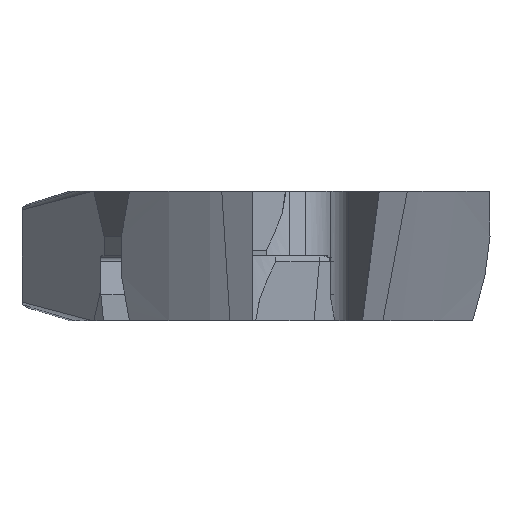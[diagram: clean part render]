
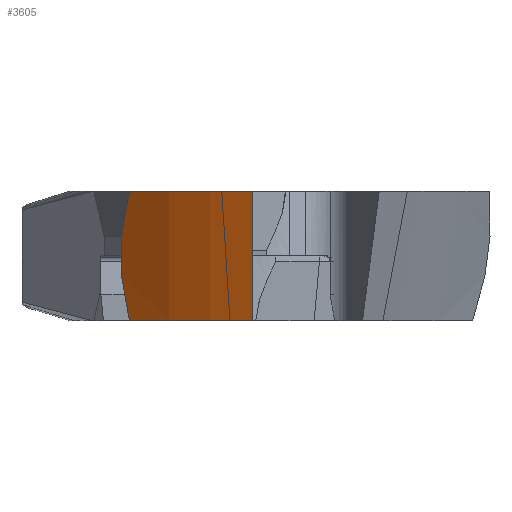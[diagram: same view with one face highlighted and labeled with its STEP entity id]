
A CAD part, left-side view. The second image highlights one B-rep face of the part: STEP entity #3605.
In plain terms, the highlighted cylindrical face has radius 38.1 mm (diameter 76.2 mm), a partial arc.
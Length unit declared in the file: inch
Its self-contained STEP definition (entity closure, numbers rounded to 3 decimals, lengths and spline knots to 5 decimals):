
#2897=CARTESIAN_POINT('',(-2.45945,0.63381,0.02075));
#2898=VERTEX_POINT('',#2897);
#2905=CARTESIAN_POINT('',(-2.61445,0.,0.02075));
#2906=VERTEX_POINT('',#2905);
#2907=CARTESIAN_POINT('',(-0.95938,0.,0.02075));
#2908=DIRECTION('',(0.0,0.0,-1.0));
#2909=DIRECTION('',(-1.0,0.0,0.0));
#2910=AXIS2_PLACEMENT_3D('',#2907,#2908,#2909);
#2911=ELLIPSE('',#2910,1.65507,1.5);
#2912=EDGE_CURVE('',#2906,#2898,#2911,.T.);
#3045=CARTESIAN_POINT('',(-2.30249,0.,-0.64825));
#3046=VERTEX_POINT('',#3045);
#3053=CARTESIAN_POINT('',(-2.14749,0.63381,-0.64825));
#3054=VERTEX_POINT('',#3053);
#3055=CARTESIAN_POINT('',(-0.64742,0.,-0.64825));
#3056=DIRECTION('',(0.0,0.0,1.0));
#3057=DIRECTION('',(-1.0,0.0,0.0));
#3058=AXIS2_PLACEMENT_3D('',#3055,#3056,#3057);
#3059=ELLIPSE('',#3058,1.65507,1.5);
#3060=EDGE_CURVE('',#3054,#3046,#3059,.T.);
#3139=CARTESIAN_POINT('',(-2.32847,0.675,-0.21286));
#3140=VERTEX_POINT('',#3139);
#3147=CARTESIAN_POINT('',(-2.63553,0.,3.61526));
#3148=DIRECTION('',(0.,0.985,0.174));
#3149=DIRECTION('',(-0.428,-0.157,0.89));
#3150=AXIS2_PLACEMENT_3D('',#3147,#3148,#3149);
#3151=ELLIPSE('',#3150,9.53115,1.5);
#3152=EDGE_CURVE('',#3140,#2898,#3151,.T.);
#3435=CARTESIAN_POINT('',(-2.23438,0.675,-0.41464));
#3436=VERTEX_POINT('',#3435);
#3443=CARTESIAN_POINT('',(-2.32847,0.675,-0.21286));
#3444=DIRECTION('',(0.423,0.,-0.906));
#3445=VECTOR('',#3444,0.22264);
#3446=LINE('',#3443,#3445);
#3447=EDGE_CURVE('',#3140,#3436,#3446,.T.);
#3581=CARTESIAN_POINT('',(-1.26849,0.,0.68363));
#3582=DIRECTION('',(0.423,0.,-0.906));
#3583=DIRECTION('',(0.0,-1.0,0.0));
#3584=AXIS2_PLACEMENT_3D('',#3581,#3582,#3583);
#3585=CYLINDRICAL_SURFACE('',#3584,1.5);
#3586=ORIENTED_EDGE('',*,*,#2912,.T.);
#3587=ORIENTED_EDGE('',*,*,#3152,.F.);
#3588=ORIENTED_EDGE('',*,*,#3447,.T.);
#3589=CARTESIAN_POINT('',(1.02872,0.,-4.24276));
#3590=DIRECTION('',(0.,0.985,-0.174));
#3591=DIRECTION('',(0.428,-0.157,-0.89));
#3592=AXIS2_PLACEMENT_3D('',#3589,#3590,#3591);
#3593=ELLIPSE('',#3592,9.53115,1.5);
#3594=EDGE_CURVE('',#3054,#3436,#3593,.T.);
#3595=ORIENTED_EDGE('',*,*,#3594,.F.);
#3596=ORIENTED_EDGE('',*,*,#3060,.T.);
#3597=CARTESIAN_POINT('',(-2.61445,0.,0.02075));
#3598=DIRECTION('',(0.423,0.,-0.906));
#3599=VECTOR('',#3598,0.73816);
#3600=LINE('',#3597,#3599);
#3601=EDGE_CURVE('',#2906,#3046,#3600,.T.);
#3602=ORIENTED_EDGE('',*,*,#3601,.F.);
#3603=EDGE_LOOP('',(#3586,#3587,#3588,#3595,#3596,#3602));
#3604=FACE_OUTER_BOUND('',#3603,.T.);
#3605=ADVANCED_FACE('',(#3604),#3585,.T.);
